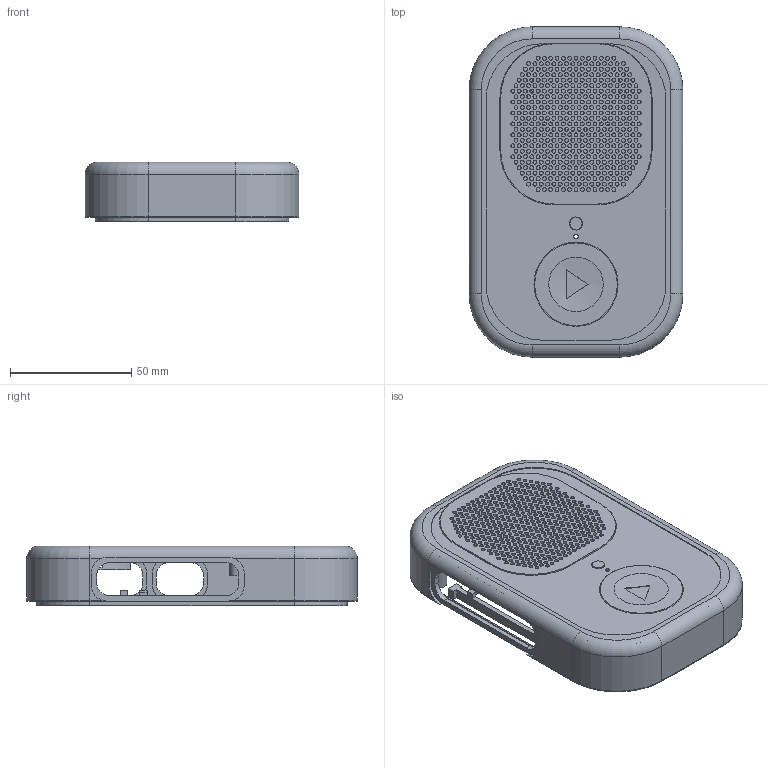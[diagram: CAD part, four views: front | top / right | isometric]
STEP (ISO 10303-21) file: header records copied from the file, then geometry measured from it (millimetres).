
FILE_DESCRIPTION(('Open CASCADE Model'),'2;1');
FILE_NAME('Open CASCADE Shape Model','2026-09-06T11:33:32',('Author'),( 'Open CASCADE'),'Open CASCADE STEP processor 7.7','Open CASCADE 7.7' ,'Unknown');
FILE_SCHEMA(('AUTOMOTIVE_DESIGN { 1 0 10303 214 1 1 1 1 }'));
Length unit declared in the file: millimetre
Products named in the file (38): A01_coordinated_front_sample; 01_front_structural_tub; 01_front_structural_tub_part; 03_front_perimeter_bumper; 03_front_perimeter_bumper_part; 05_perforated_rigid_speaker_panel; 05_perforated_rigid_speaker_panel_part; 07_speaker_edge_cradle; 07_speaker_edge_cradle_part; 08_speaker_front_gasket; 08_speaker_front_gasket_part; 13_circular_play_key; 13_circular_play_key_part; 15_front_switch_holder; 15_front_switch_holder_part; 16_rgb_led_support_ring; 16_rgb_led_support_ring_part; 17_microphone_cradle; 17_microphone_cradle_part; 18_microphone_acoustic_gasket; 18_microphone_acoustic_gasket_part; 27_offset_status_light_guide; 27_offset_status_light_guide_part; 28_acoustic_mesh; 28_acoustic_mesh_part; 29_microphone_PSA; 29_microphone_PSA_part; 30_optical_support_pad_1; 30_optical_support_pad_1_part; 30_optical_support_pad_2; 30_optical_support_pad_2_part; 31_play_seat_shim_1; 31_play_seat_shim_1_part; 31_play_seat_shim_2; 31_play_seat_shim_2_part; 32_play_stop_shim; 32_play_stop_shim_part
Assembly tree (37 placements, depth 4):
  A01_coordinated_front_sample
    A01_coordinated_front_sample
      01_front_structural_tub
        01_front_structural_tub_part
      03_front_perimeter_bumper
        03_front_perimeter_bumper_part
      05_perforated_rigid_speaker_panel
        05_perforated_rigid_speaker_panel_part
      07_speaker_edge_cradle
        07_speaker_edge_cradle_part
      08_speaker_front_gasket
        08_speaker_front_gasket_part
      13_circular_play_key
        13_circular_play_key_part
      15_front_switch_holder
        15_front_switch_holder_part
      16_rgb_led_support_ring
        16_rgb_led_support_ring_part
      17_microphone_cradle
        17_microphone_cradle_part
      18_microphone_acoustic_gasket
        18_microphone_acoustic_gasket_part
      27_offset_status_light_guide
        27_offset_status_light_guide_part
      28_acoustic_mesh
        28_acoustic_mesh_part
      29_microphone_PSA
        29_microphone_PSA_part
      30_optical_support_pad_1
        30_optical_support_pad_1_part
      30_optical_support_pad_2
        30_optical_support_pad_2_part
      31_play_seat_shim_1
        31_play_seat_shim_1_part
      31_play_seat_shim_2
        31_play_seat_shim_2_part
      32_play_stop_shim
        32_play_stop_shim_part
Bounding box: 88 x 136 x 24.6 mm (x, y, z)
Volume: 53013.3 mm3; surface area: 80451.4 mm2
Topology: 18 solids, 20 shells, 1292 faces, 3638 edges, 2407 vertices
Faces by surface type: cylinder 769, plane 494, torus 28, sphere 1
Full cylindrical faces by diameter (mm): 1.6 x473, 1.8 x2, 2 x1, 5 x3, 5.3 x3, 5.4 x1, 6.2 x2, 7 x1, 34 x1, 34.6 x1, 36.4 x2, 39.6 x1
Entity records: 96709 total; most frequent: CARTESIAN_POINT 23789, DIRECTION 13474, ORIENTED_EDGE 7276, PCURVE 7276, DEFINITIONAL_REPRESENTATION 7276, LINE 7070, VECTOR 7070, EDGE_CURVE 3638
